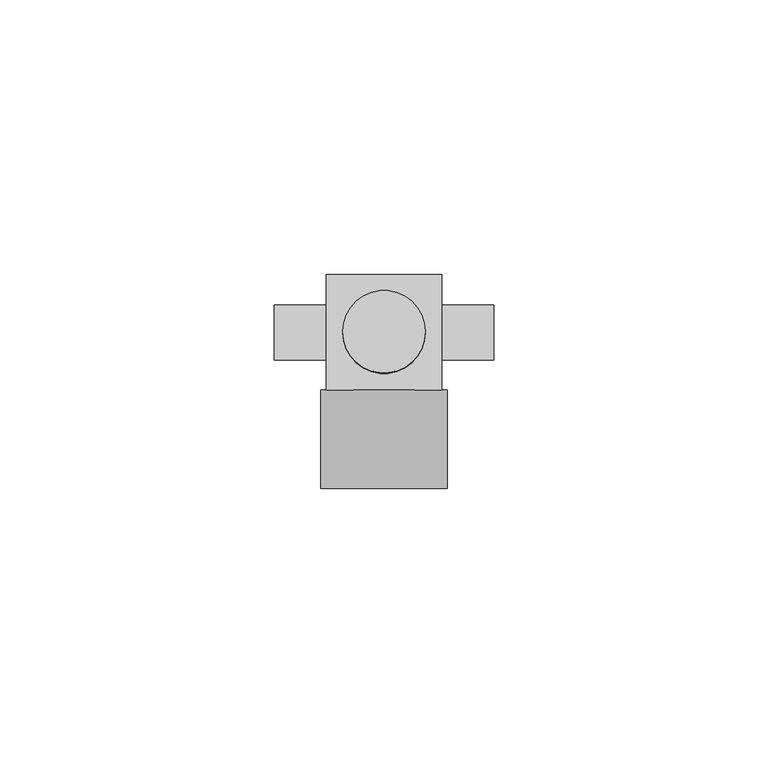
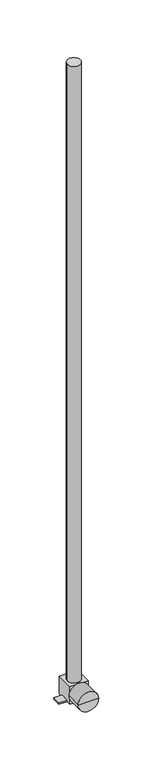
"""IFC4 building model written with IfcOpenShell, lengths in millimetres: pipe fitting geometry, KAN-therm Push 18x2 kolanko z rurą Cu15 ze wspornikiem L=750 : KAN-therm Push 18x2 kolanko z rurą Cu15 ze wspornikiem L=750."""

from ifc_helpers import new_model, si_unit, frame, origin, origin_with_axes, place, context, project, spatial, circle_curve, source, transform, mapped, element, save
from ifc_brep_helpers import plane_surface, cylinder_surface, advanced_brep


def pipe_fitting_f2d528ed(model_context):
    return source(origin(), model_context, "Body", "AdvancedBrep", [
        advanced_brep(
        [(-11.5, -28.5, 0.0), (11.5, -28.5, 0.0), (0.0, -28.5, 0.0), (-11.5, -10.5, 0.0), (11.5, -10.5, 0.0), (0.0, -10.5, 0.0)],
        [
            (0, 1, circle_curve(frame((0.0, -28.5, 0.0), z_axis=(0.0, -1.0, 0.0), x_axis=(1.0000000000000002, 0.0, 0.0)), 11.5)),
            (1, 2),
            (2, 0),
            (1, 0, circle_curve(frame((0.0, -28.5, 0.0), z_axis=(0.0, -1.0, 0.0), x_axis=(1.0000000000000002, 0.0, 0.0)), 11.5)),
            (3, 4, circle_curve(frame((0.0, -10.5, 0.0), z_axis=(0.0, -1.0, 0.0), x_axis=(1.0000000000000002, 0.0, 0.0)), 11.5)),
            (4, 1),
            (0, 3),
            (4, 3, circle_curve(frame((0.0, -10.5, 0.0), z_axis=(0.0, -1.0, 0.0), x_axis=(1.0000000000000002, 0.0, 0.0)), 11.5)),
            (5, 4),
            (3, 5),
        ],
        [
            plane_surface(frame((0.0, -28.5, 0.0), z_axis=(0.0, -1.0, 0.0), x_axis=(1.0, 0.0, 0.0))),
            cylinder_surface(frame((0.0, -2005.5, 0.0), z_axis=(0.0, 1.0000000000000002, 0.0), x_axis=(1.0000000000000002, 0.0, 0.0)), 11.5),
            plane_surface(frame((0.0, -10.5, 0.0), z_axis=(0.0, 1.0, 0.0), x_axis=(1.0, 0.0, 0.0))),
        ],
        [
            (0, [[1, 2, 3]]),
            (0, [[4, -3, -2]]),
            (1, [[5, 6, -1, 7]]),
            (1, [[8, -7, -4, -6]]),
            (2, [[9, -5, 10]]),
            (2, [[-10, -8, -9]]),
        ],
    ),
        advanced_brep(
        [(10.5, -10.5, 10.5), (10.5, 10.5, 10.5), (-10.5, 10.5, 10.5), (-10.5, -10.5, 10.5), (7.5, 0.0, 10.5), (-7.5, 0.0, 10.5), (10.5, -10.5, -10.5), (-10.5, -10.5, -10.5), (-10.5, -5.0, -10.5), (-20.0, -5.0, -10.5), (-20.0, 5.0, -10.5), (-10.5, 5.0, -10.5), (-10.5, 10.5, -10.5), (10.5, 10.5, -10.5), (10.5, 5.0, -10.5), (20.0, 5.0, -10.5), (20.0, -5.0, -10.5), (10.5, -5.0, -10.5), (-7.5, 0.0, 750.0), (7.5, 0.0, 750.0), (10.5, -5.0, -8.5), (10.5, 5.0, -8.5), (-10.5, 5.0, -8.5), (-10.5, -5.0, -8.5), (20.0, -5.0, -8.5), (20.0, 5.0, -8.5), (-20.0, 5.0, -8.5), (-20.0, -5.0, -8.5)],
        [
            (0, 1),
            (1, 2),
            (2, 3),
            (3, 0),
            (4, 5, circle_curve(frame((0.0, 0.0, 10.5), z_axis=(0.0, 0.0, -1.0), x_axis=(1.0, 0.0, 0.0)), 7.5)),
            (5, 4, circle_curve(frame((0.0, 0.0, 10.5), z_axis=(0.0, 0.0, -1.0), x_axis=(1.0, 0.0, 0.0)), 7.5)),
            (6, 7),
            (7, 8),
            (8, 9),
            (9, 10),
            (10, 11),
            (11, 12),
            (12, 13),
            (13, 14),
            (14, 15),
            (15, 16),
            (16, 17),
            (17, 6),
            (18, 19, circle_curve(frame((0.0, 0.0, 750.0), z_axis=(0.0, 0.0, 1.0), x_axis=(1.0, 0.0, 0.0)), 7.5)),
            (19, 18, circle_curve(frame((0.0, 0.0, 750.0), z_axis=(0.0, 0.0, 1.0), x_axis=(1.0, 0.0, 0.0)), 7.5)),
            (18, 5),
            (4, 19),
            (0, 6),
            (17, 20),
            (20, 21),
            (21, 14),
            (13, 1),
            (12, 2),
            (11, 22),
            (22, 23),
            (23, 8),
            (7, 3),
            (24, 25),
            (25, 21),
            (20, 24),
            (26, 27),
            (27, 23),
            (22, 26),
            (27, 9),
            (16, 24),
            (15, 25),
            (10, 26),
        ],
        [
            plane_surface(frame((10.5, 10.5, 10.5), z_axis=(0.0, 0.0, 1.0), x_axis=(0.0, 1.0, 0.0))),
            plane_surface(frame((10.5, 10.5, -10.5), z_axis=(0.0, 0.0, -1.0), x_axis=(0.0, -1.0, 0.0))),
            plane_surface(frame((7.5, 0.0, 750.0), z_axis=(0.0, 0.0, 1.0), x_axis=(0.0, 1.0, 0.0))),
            cylinder_surface(origin_with_axes(), 7.5),
            plane_surface(frame((10.5, -10.5, 10.5), z_axis=(1.0, 0.0, 0.0), x_axis=(0.0, 0.0, -1.0))),
            plane_surface(frame((10.5, 10.5, 10.5), z_axis=(0.0, 1.0, 0.0), x_axis=(0.0, 0.0, -1.0))),
            plane_surface(frame((-10.5, 10.5, 10.5), z_axis=(-1.0, 0.0, 0.0), x_axis=(0.0, 0.0, -1.0))),
            plane_surface(frame((-10.5, -10.5, 10.5), z_axis=(0.0, -1.0, 0.0), x_axis=(0.0, 0.0, -1.0))),
            plane_surface(frame((2000.0, -5.0, -8.5), z_axis=(0.0, 0.0, 1.0), x_axis=(1.0, 0.0, 0.0))),
            plane_surface(frame((-20.0, -5.0, -8.5), z_axis=(0.0, -1.0, 0.0), x_axis=(0.0, 0.0, -1.0))),
            plane_surface(frame((20.0, -5.0, -8.5), z_axis=(1.0, 0.0, 0.0), x_axis=(0.0, 0.0, -1.0))),
            plane_surface(frame((20.0, 5.0, -8.5), z_axis=(0.0, 1.0, 0.0), x_axis=(0.0, 0.0, -1.0))),
            plane_surface(frame((-20.0, 5.0, -8.5), z_axis=(-1.0, 0.0, 0.0), x_axis=(0.0, 0.0, -1.0))),
        ],
        [
            (0, [[1, 2, 3, 4], [5, 6]]),
            (1, [[7, 8, 9, 10, 11, 12, 13, 14, 15, 16, 17, 18]]),
            (2, [[19, 20]]),
            (3, [[-19, 21, -5, 22]]),
            (3, [[-20, -22, -6, -21]]),
            (4, [[-1, 23, -18, 24, 25, 26, -14, 27]]),
            (5, [[-2, -27, -13, 28]]),
            (6, [[-3, -28, -12, 29, 30, 31, -8, 32]]),
            (7, [[-4, -32, -7, -23]]),
            (8, [[33, 34, -25, 35]]),
            (8, [[36, 37, -30, 38]]),
            (9, [[39, -9, -31, -37]]),
            (9, [[40, -35, -24, -17]]),
            (10, [[-33, -40, -16, 41]]),
            (11, [[-41, -15, -26, -34]]),
            (11, [[42, -38, -29, -11]]),
            (12, [[-36, -42, -10, -39]]),
        ],
    ),
    ])


if __name__ == "__main__":
    model = new_model("IFC4")
    model_context = context("Model", 3, world=origin())
    ifc_project = project(units=[si_unit("LENGTHUNIT", "METRE", prefix="MILLI")], contexts=[model_context])
    site = spatial("IfcSite", under=ifc_project)
    building = spatial("IfcBuilding", under=site)
    placement = place(None, origin())
    pipe_fitting_shape = pipe_fitting_f2d528ed(model_context)
    element("IfcPipeFitting", 1, ObjectType="KAN-therm Push 18x2 kolanko z rurą Cu15 ze wspornikiem L=750 : KAN-therm Push 18x2 kolanko z rurą Cu15 ze wspornikiem L=750", at=placement, inside=building, context=model_context, shape_type="MappedRepresentation", body=[
        mapped(pipe_fitting_shape, transform((0.0, 0.0, 0.0), x_axis=(1.0, 0.0, 0.0), y_axis=(0.0, 1.0, 0.0), z_axis=(0.0, 0.0, 1.0))),
    ])
    save(model, "model.ifc")
